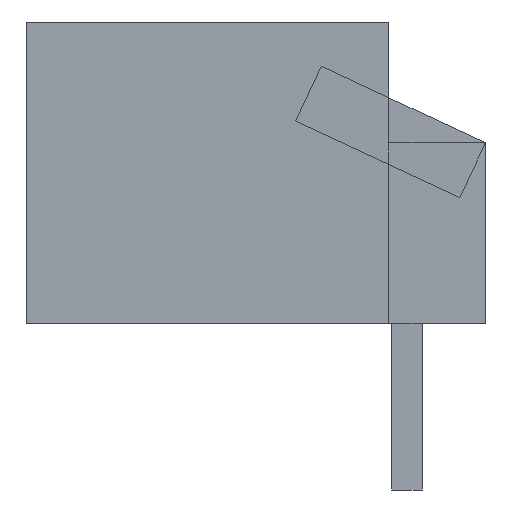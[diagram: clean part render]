
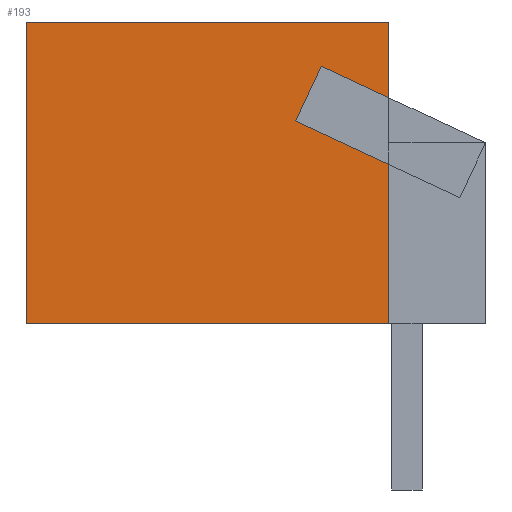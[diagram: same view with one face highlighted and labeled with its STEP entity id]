
A CAD part, front view. The second image highlights one B-rep face of the part: STEP entity #193.
In plain terms, the highlighted planar face has unit normal (0, -1, 0).
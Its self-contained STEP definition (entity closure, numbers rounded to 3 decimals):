
#21 = EDGE_CURVE('',#22,#24,#26,.T.);
#22 = VERTEX_POINT('',#23);
#23 = CARTESIAN_POINT('',(0.,0.,0.));
#24 = VERTEX_POINT('',#25);
#25 = CARTESIAN_POINT('',(-6.,0.,0.));
#26 = SURFACE_CURVE('',#27,(#31,#43),.PCURVE_S1.);
#27 = LINE('',#28,#29);
#28 = CARTESIAN_POINT('',(0.,0.,0.));
#29 = VECTOR('',#30,1.);
#30 = DIRECTION('',(-1.,0.,0.));
#31 = PCURVE('',#32,#37);
#32 = PLANE('',#33);
#33 = AXIS2_PLACEMENT_3D('',#34,#35,#36);
#34 = CARTESIAN_POINT('',(0.,0.,0.));
#35 = DIRECTION('',(0.,0.,1.));
#36 = DIRECTION('',(-1.,0.,0.));
#37 = DEFINITIONAL_REPRESENTATION('',(#38),#42);
#38 = LINE('',#39,#40);
#39 = CARTESIAN_POINT('',(0.,0.));
#40 = VECTOR('',#41,1.);
#41 = DIRECTION('',(1.,0.));
#42 = ( GEOMETRIC_REPRESENTATION_CONTEXT(2) 
PARAMETRIC_REPRESENTATION_CONTEXT() REPRESENTATION_CONTEXT('2D SPACE',''
  ) );
#43 = PCURVE('',#44,#49);
#44 = PLANE('',#45);
#45 = AXIS2_PLACEMENT_3D('',#46,#47,#48);
#46 = CARTESIAN_POINT('',(0.,0.,0.));
#47 = DIRECTION('',(0.,1.,0.));
#48 = DIRECTION('',(-1.,0.,0.));
#49 = DEFINITIONAL_REPRESENTATION('',(#50),#54);
#50 = LINE('',#51,#52);
#51 = CARTESIAN_POINT('',(0.,0.));
#52 = VECTOR('',#53,1.);
#53 = DIRECTION('',(1.,0.));
#54 = ( GEOMETRIC_REPRESENTATION_CONTEXT(2) 
PARAMETRIC_REPRESENTATION_CONTEXT() REPRESENTATION_CONTEXT('2D SPACE',''
  ) );
#100 = PLANE('',#101);
#101 = AXIS2_PLACEMENT_3D('',#102,#103,#104);
#102 = CARTESIAN_POINT('',(0.,0.,0.));
#103 = DIRECTION('',(-1.,0.,0.));
#104 = DIRECTION('',(0.,0.,1.));
#182 = PLANE('',#183);
#183 = AXIS2_PLACEMENT_3D('',#184,#185,#186);
#184 = CARTESIAN_POINT('',(-6.,0.,0.));
#185 = DIRECTION('',(-1.,0.,0.));
#186 = DIRECTION('',(0.,0.,1.));
#193 = ADVANCED_FACE('',(#194),#44,.F.);
#194 = FACE_BOUND('',#195,.F.);
#195 = EDGE_LOOP('',(#196,#224,#225,#248,#276,#299,#327,#350));
#196 = ORIENTED_EDGE('',*,*,#197,.F.);
#197 = EDGE_CURVE('',#22,#198,#200,.T.);
#198 = VERTEX_POINT('',#199);
#199 = CARTESIAN_POINT('',(0.,0.,2.643));
#200 = SURFACE_CURVE('',#201,(#205,#212),.PCURVE_S1.);
#201 = LINE('',#202,#203);
#202 = CARTESIAN_POINT('',(0.,0.,0.));
#203 = VECTOR('',#204,1.);
#204 = DIRECTION('',(0.,0.,1.));
#205 = PCURVE('',#44,#206);
#206 = DEFINITIONAL_REPRESENTATION('',(#207),#211);
#207 = LINE('',#208,#209);
#208 = CARTESIAN_POINT('',(0.,0.));
#209 = VECTOR('',#210,1.);
#210 = DIRECTION('',(0.,1.));
#211 = ( GEOMETRIC_REPRESENTATION_CONTEXT(2) 
PARAMETRIC_REPRESENTATION_CONTEXT() REPRESENTATION_CONTEXT('2D SPACE',''
  ) );
#212 = PCURVE('',#213,#218);
#213 = PLANE('',#214);
#214 = AXIS2_PLACEMENT_3D('',#215,#216,#217);
#215 = CARTESIAN_POINT('',(0.,0.,0.));
#216 = DIRECTION('',(0.,1.,0.));
#217 = DIRECTION('',(0.,0.,1.));
#218 = DEFINITIONAL_REPRESENTATION('',(#219),#223);
#219 = LINE('',#220,#221);
#220 = CARTESIAN_POINT('',(0.,0.));
#221 = VECTOR('',#222,1.);
#222 = DIRECTION('',(1.,0.));
#223 = ( GEOMETRIC_REPRESENTATION_CONTEXT(2) 
PARAMETRIC_REPRESENTATION_CONTEXT() REPRESENTATION_CONTEXT('2D SPACE',''
  ) );
#224 = ORIENTED_EDGE('',*,*,#21,.T.);
#225 = ORIENTED_EDGE('',*,*,#226,.T.);
#226 = EDGE_CURVE('',#24,#227,#229,.T.);
#227 = VERTEX_POINT('',#228);
#228 = CARTESIAN_POINT('',(-6.,0.,5.));
#229 = SURFACE_CURVE('',#230,(#234,#241),.PCURVE_S1.);
#230 = LINE('',#231,#232);
#231 = CARTESIAN_POINT('',(-6.,0.,0.));
#232 = VECTOR('',#233,1.);
#233 = DIRECTION('',(0.,0.,1.));
#234 = PCURVE('',#44,#235);
#235 = DEFINITIONAL_REPRESENTATION('',(#236),#240);
#236 = LINE('',#237,#238);
#237 = CARTESIAN_POINT('',(6.,0.));
#238 = VECTOR('',#239,1.);
#239 = DIRECTION('',(0.,1.));
#240 = ( GEOMETRIC_REPRESENTATION_CONTEXT(2) 
PARAMETRIC_REPRESENTATION_CONTEXT() REPRESENTATION_CONTEXT('2D SPACE',''
  ) );
#241 = PCURVE('',#182,#242);
#242 = DEFINITIONAL_REPRESENTATION('',(#243),#247);
#243 = LINE('',#244,#245);
#244 = CARTESIAN_POINT('',(0.,0.));
#245 = VECTOR('',#246,1.);
#246 = DIRECTION('',(1.,0.));
#247 = ( GEOMETRIC_REPRESENTATION_CONTEXT(2) 
PARAMETRIC_REPRESENTATION_CONTEXT() REPRESENTATION_CONTEXT('2D SPACE',''
  ) );
#248 = ORIENTED_EDGE('',*,*,#249,.F.);
#249 = EDGE_CURVE('',#250,#227,#252,.T.);
#250 = VERTEX_POINT('',#251);
#251 = CARTESIAN_POINT('',(0.,0.,5.));
#252 = SURFACE_CURVE('',#253,(#257,#264),.PCURVE_S1.);
#253 = LINE('',#254,#255);
#254 = CARTESIAN_POINT('',(0.,0.,5.));
#255 = VECTOR('',#256,1.);
#256 = DIRECTION('',(-1.,0.,0.));
#257 = PCURVE('',#44,#258);
#258 = DEFINITIONAL_REPRESENTATION('',(#259),#263);
#259 = LINE('',#260,#261);
#260 = CARTESIAN_POINT('',(0.,5.));
#261 = VECTOR('',#262,1.);
#262 = DIRECTION('',(1.,0.));
#263 = ( GEOMETRIC_REPRESENTATION_CONTEXT(2) 
PARAMETRIC_REPRESENTATION_CONTEXT() REPRESENTATION_CONTEXT('2D SPACE',''
  ) );
#264 = PCURVE('',#265,#270);
#265 = PLANE('',#266);
#266 = AXIS2_PLACEMENT_3D('',#267,#268,#269);
#267 = CARTESIAN_POINT('',(0.,0.,5.));
#268 = DIRECTION('',(0.,0.,1.));
#269 = DIRECTION('',(-1.,0.,0.));
#270 = DEFINITIONAL_REPRESENTATION('',(#271),#275);
#271 = LINE('',#272,#273);
#272 = CARTESIAN_POINT('',(0.,0.));
#273 = VECTOR('',#274,1.);
#274 = DIRECTION('',(1.,0.));
#275 = ( GEOMETRIC_REPRESENTATION_CONTEXT(2) 
PARAMETRIC_REPRESENTATION_CONTEXT() REPRESENTATION_CONTEXT('2D SPACE',''
  ) );
#276 = ORIENTED_EDGE('',*,*,#277,.F.);
#277 = EDGE_CURVE('',#278,#250,#280,.T.);
#278 = VERTEX_POINT('',#279);
#279 = CARTESIAN_POINT('',(0.,0.,3.746));
#280 = SURFACE_CURVE('',#281,(#285,#292),.PCURVE_S1.);
#281 = LINE('',#282,#283);
#282 = CARTESIAN_POINT('',(0.,0.,0.));
#283 = VECTOR('',#284,1.);
#284 = DIRECTION('',(0.,0.,1.));
#285 = PCURVE('',#44,#286);
#286 = DEFINITIONAL_REPRESENTATION('',(#287),#291);
#287 = LINE('',#288,#289);
#288 = CARTESIAN_POINT('',(0.,0.));
#289 = VECTOR('',#290,1.);
#290 = DIRECTION('',(0.,1.));
#291 = ( GEOMETRIC_REPRESENTATION_CONTEXT(2) 
PARAMETRIC_REPRESENTATION_CONTEXT() REPRESENTATION_CONTEXT('2D SPACE',''
  ) );
#292 = PCURVE('',#100,#293);
#293 = DEFINITIONAL_REPRESENTATION('',(#294),#298);
#294 = LINE('',#295,#296);
#295 = CARTESIAN_POINT('',(0.,0.));
#296 = VECTOR('',#297,1.);
#297 = DIRECTION('',(1.,0.));
#298 = ( GEOMETRIC_REPRESENTATION_CONTEXT(2) 
PARAMETRIC_REPRESENTATION_CONTEXT() REPRESENTATION_CONTEXT('2D SPACE',''
  ) );
#299 = ORIENTED_EDGE('',*,*,#300,.F.);
#300 = EDGE_CURVE('',#301,#278,#303,.T.);
#301 = VERTEX_POINT('',#302);
#302 = CARTESIAN_POINT('',(-1.119,0.,4.268));
#303 = SURFACE_CURVE('',#304,(#308,#315),.PCURVE_S1.);
#304 = LINE('',#305,#306);
#305 = CARTESIAN_POINT('',(-1.119,0.,4.268));
#306 = VECTOR('',#307,1.);
#307 = DIRECTION('',(0.906,0.,-0.423));
#308 = PCURVE('',#44,#309);
#309 = DEFINITIONAL_REPRESENTATION('',(#310),#314);
#310 = LINE('',#311,#312);
#311 = CARTESIAN_POINT('',(1.119,4.268));
#312 = VECTOR('',#313,1.);
#313 = DIRECTION('',(-0.906,-0.423));
#314 = ( GEOMETRIC_REPRESENTATION_CONTEXT(2) 
PARAMETRIC_REPRESENTATION_CONTEXT() REPRESENTATION_CONTEXT('2D SPACE',''
  ) );
#315 = PCURVE('',#316,#321);
#316 = PLANE('',#317);
#317 = AXIS2_PLACEMENT_3D('',#318,#319,#320);
#318 = CARTESIAN_POINT('',(0.,0.,0.));
#319 = DIRECTION('',(0.,1.,0.));
#320 = DIRECTION('',(-1.,0.,0.));
#321 = DEFINITIONAL_REPRESENTATION('',(#322),#326);
#322 = LINE('',#323,#324);
#323 = CARTESIAN_POINT('',(1.119,4.268));
#324 = VECTOR('',#325,1.);
#325 = DIRECTION('',(-0.906,-0.423));
#326 = ( GEOMETRIC_REPRESENTATION_CONTEXT(2) 
PARAMETRIC_REPRESENTATION_CONTEXT() REPRESENTATION_CONTEXT('2D SPACE',''
  ) );
#327 = ORIENTED_EDGE('',*,*,#328,.F.);
#328 = EDGE_CURVE('',#329,#301,#331,.T.);
#329 = VERTEX_POINT('',#330);
#330 = CARTESIAN_POINT('',(-1.542,0.,3.362));
#331 = SURFACE_CURVE('',#332,(#336,#343),.PCURVE_S1.);
#332 = LINE('',#333,#334);
#333 = CARTESIAN_POINT('',(-1.542,0.,3.362));
#334 = VECTOR('',#335,1.);
#335 = DIRECTION('',(0.423,0.,0.906));
#336 = PCURVE('',#44,#337);
#337 = DEFINITIONAL_REPRESENTATION('',(#338),#342);
#338 = LINE('',#339,#340);
#339 = CARTESIAN_POINT('',(1.542,3.362));
#340 = VECTOR('',#341,1.);
#341 = DIRECTION('',(-0.423,0.906));
#342 = ( GEOMETRIC_REPRESENTATION_CONTEXT(2) 
PARAMETRIC_REPRESENTATION_CONTEXT() REPRESENTATION_CONTEXT('2D SPACE',''
  ) );
#343 = PCURVE('',#316,#344);
#344 = DEFINITIONAL_REPRESENTATION('',(#345),#349);
#345 = LINE('',#346,#347);
#346 = CARTESIAN_POINT('',(1.542,3.362));
#347 = VECTOR('',#348,1.);
#348 = DIRECTION('',(-0.423,0.906));
#349 = ( GEOMETRIC_REPRESENTATION_CONTEXT(2) 
PARAMETRIC_REPRESENTATION_CONTEXT() REPRESENTATION_CONTEXT('2D SPACE',''
  ) );
#350 = ORIENTED_EDGE('',*,*,#351,.T.);
#351 = EDGE_CURVE('',#329,#198,#352,.T.);
#352 = SURFACE_CURVE('',#353,(#357,#364),.PCURVE_S1.);
#353 = LINE('',#354,#355);
#354 = CARTESIAN_POINT('',(-1.542,0.,3.362));
#355 = VECTOR('',#356,1.);
#356 = DIRECTION('',(0.906,0.,-0.423));
#357 = PCURVE('',#44,#358);
#358 = DEFINITIONAL_REPRESENTATION('',(#359),#363);
#359 = LINE('',#360,#361);
#360 = CARTESIAN_POINT('',(1.542,3.362));
#361 = VECTOR('',#362,1.);
#362 = DIRECTION('',(-0.906,-0.423));
#363 = ( GEOMETRIC_REPRESENTATION_CONTEXT(2) 
PARAMETRIC_REPRESENTATION_CONTEXT() REPRESENTATION_CONTEXT('2D SPACE',''
  ) );
#364 = PCURVE('',#316,#365);
#365 = DEFINITIONAL_REPRESENTATION('',(#366),#370);
#366 = LINE('',#367,#368);
#367 = CARTESIAN_POINT('',(1.542,3.362));
#368 = VECTOR('',#369,1.);
#369 = DIRECTION('',(-0.906,-0.423));
#370 = ( GEOMETRIC_REPRESENTATION_CONTEXT(2) 
PARAMETRIC_REPRESENTATION_CONTEXT() REPRESENTATION_CONTEXT('2D SPACE',''
  ) );
